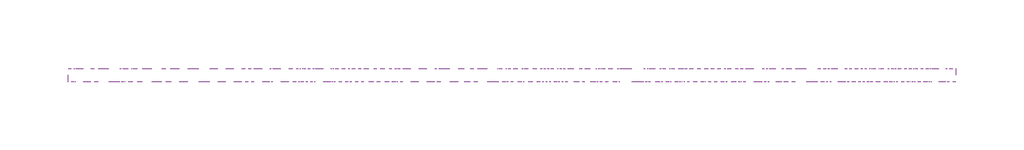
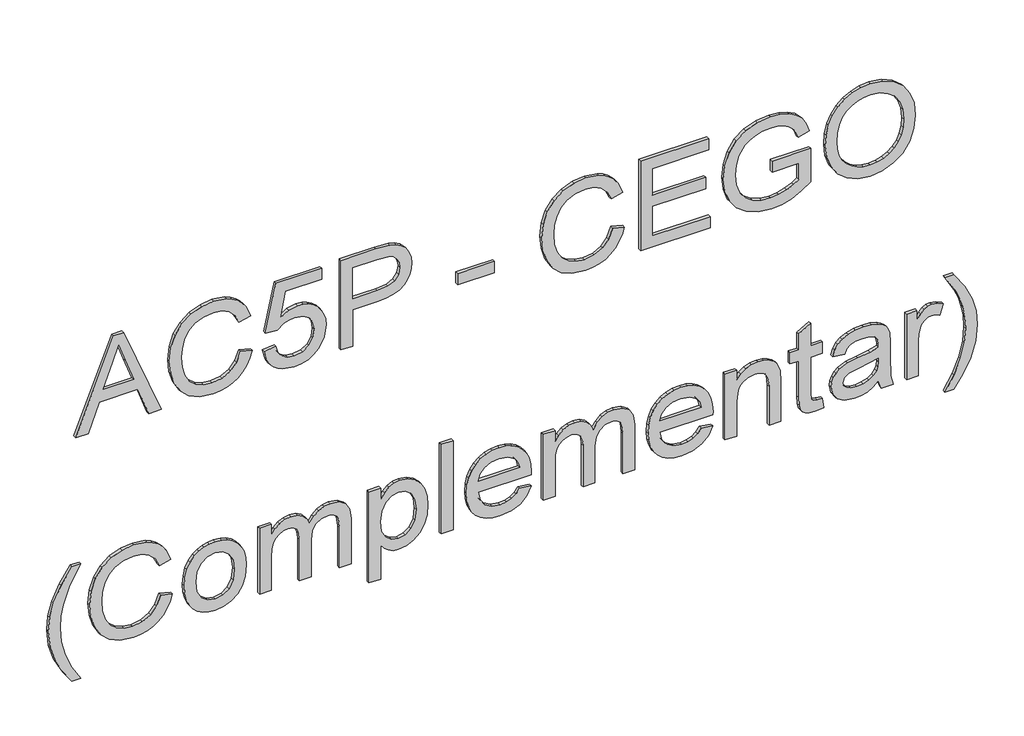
# One storey, part 12 of 12: 1 proxy.
"""IFC4 building model written with IfcOpenShell, lengths in millimetres."""

from ifc_helpers import new_model, si_unit, frame, origin, place, context, project, spatial, polyline, outline, extrude, element, save

model = new_model("IFC4")

# Units and contexts
model_context = context("Model", 3, world=origin())
ifc_project = project(units=[si_unit("LENGTHUNIT", "METRE", prefix="MILLI")], contexts=[model_context])

# Site, building, storey
site = spatial("IfcSite", under=ifc_project)
building = spatial("IfcBuilding", under=site)
storey = spatial("IfcBuildingStorey", under=building, Name="02 - Marelli - Planta Baixa - Painéis Cego", Elevation=12000.0)

# Proxy
placement = place(None, origin())
element("IfcBuildingElementProxy", 1, Name="300mm Arial", ObjectType="300mm Arial", at=placement, inside=storey, context=model_context, shape_type="SweptSolid", body=[
    extrude(outline(polyline([(17965.9244535, 67481.4076008), (17965.9244535, 67521.2124327), (18060.1022443, 67555.6461874), (18060.1022443, 67679.7695726), (17965.9244535, 67714.2769037), (17965.9244535, 67754.0817356), (18267.293384, 67633.7843232), (18267.293384, 67601.7050132), (17965.9244535, 67481.4076008)]), holes=[polyline([(18097.7733606, 67569.4785504), (18178.3395176, 67598.9826865), (18229.6222677, 67617.7446682), (18171.8647944, 67638.8610947), (18097.7733606, 67666.010786), (18097.7733606, 67569.4785504)])]), frame((0.0, 8778.3159498, 0.0), z_axis=(0.0, 1.0, 0.0), x_axis=(0.0, 0.0, 1.0)), (0.0, 0.0, 1.0), 10.0),
    extrude(outline(polyline([(18073.0516905, 68006.2280551), (18040.7884396, 67994.041964), (18017.5750857, 67974.2591097), (18003.5587816, 67948.0567146), (17998.8866803, 67916.6120011), (18002.3171799, 67889.6370538), (18012.6086787, 67864.6302752), (18029.8347531, 67843.771366), (18054.0689796, 67829.2400272), (18084.1617268, 67820.714362), (18118.9633635, 67817.8724736), (18147.3822477, 67820.2729036), (18174.9550032, 67827.4741937), (18199.3455795, 67840.5983838), (18218.2179258, 67860.7675142), (18230.3028494, 67887.3469884), (18234.3311572, 67919.7022098), (18230.6983225, 67947.7716061), (18219.7998184, 67970.617078), (18200.9550632, 67988.4593547), (18173.4834752, 68001.5191656), (18182.4597959, 68039.1902819), (18220.278065, 68022.5528186), (18235.6003501, 68010.7507044), (18248.5314022, 67996.626335), (18258.7999084, 67980.446425), (18266.1345557, 67962.4776888), (18272.0022735, 67921.1737378), (18267.4681279, 67883.3186805), (18253.8656912, 67848.7745612), (18231.526057, 67819.6475042), (18200.7803193, 67798.043634), (18162.8332915, 67784.6619265), (18118.8897871, 67780.2013573), (18077.2271512, 67784.1468917), (18038.3236302, 67795.9834949), (18005.2326447, 67815.370876), (17981.0076153, 67841.9687443), (17966.1635768, 67876.6692135), (17961.215564, 67920.3643974), (17962.8503396, 67942.786805), (17967.7546665, 67963.4065909), (17975.9285445, 67982.2237549), (17987.3719739, 67999.2382972), (18001.9286046, 68014.1145254), (18019.4420868, 68026.5167471), (18039.9124206, 68036.4449625), (18063.3396059, 68043.8991714), (18073.0516905, 68006.2280551)])), frame((0.0, 8778.3159498, 0.0), z_axis=(0.0, 1.0, 0.0), x_axis=(0.0, 0.0, 1.0)), (0.0, 0.0, 1.0), 10.0),
    extrude(outline(polyline([(18045.9755757, 68081.5702877), (18011.4222593, 68090.7581406), (17996.9805917, 68099.4838416), (17984.4289179, 68110.9640591), (17974.2730756, 68124.7619332), (17967.0189025, 68140.440604), (17961.215564, 68177.4403357), (17963.4734397, 68200.9296011), (17970.247067, 68221.8069043), (17981.5364457, 68240.0722453), (17997.3415759, 68255.7256242), (18012.7742256, 68266.0585098), (18029.5680387, 68273.4391423), (18067.239155, 68279.3436483), (18087.5002559, 68277.7042742), (18105.8299763, 68272.7861518), (18122.2283162, 68264.5892811), (18136.6952757, 68253.1136621), (18148.5088863, 68239.2514086), (18156.9471795, 68223.8946346), (18162.0101555, 68207.04334), (18163.6978141, 68188.6975247), (18158.2531606, 68160.4993698), (18141.9192, 68133.5888018), (18224.9133781, 68149.7020332), (18224.9133781, 68265.2169797), (18262.5844944, 68265.2169797), (18262.5844944, 68119.241404), (18107.1911397, 68086.2791773), (18102.4822501, 68123.9502936), (18119.4783983, 68145.1035083), (18124.389623, 68159.9015615), (18126.0266978, 68178.1760997), (18121.9248136, 68206.0707519), (18109.6191609, 68225.8903944), (18090.2317797, 68237.7269976), (18064.8847102, 68241.672532), (18037.9649452, 68237.4602832), (18016.9496863, 68224.8235366), (18003.4024318, 68204.5900269), (17998.8866803, 68177.5874885), (18002.1332389, 68155.3858101), (18011.8729147, 68138.224115), (18028.0689196, 68126.1575855), (18050.6844652, 68119.241404), (18045.9755757, 68081.5702877)])), frame((0.0, 8778.3159498, 0.0), z_axis=(0.0, 1.0, 0.0), x_axis=(0.0, 0.0, 1.0)), (0.0, 0.0, 1.0), 10.0),
    extrude(outline(polyline([(17965.9244535, 68326.4325437), (17965.9244535, 68364.10366), (18088.3555815, 68364.10366), (18088.3555815, 68440.6966914), (18090.0202476, 68469.8950255), (18095.0142456, 68494.2143247), (18103.3375758, 68513.6545888), (18114.990238, 68528.2158181), (18129.0479287, 68538.8223158), (18144.5863445, 68546.3983857), (18161.6054853, 68550.9440276), (18180.1053511, 68552.4592416), (18201.5620685, 68550.2151614), (18221.19777, 68543.4829209), (18237.8444303, 68533.0626634), (18250.334024, 68519.7545322), (18259.0620243, 68503.2274335), (18264.4239044, 68483.1502737), (18267.293384, 68438.1215175), (18267.293384, 68326.4325437), (17965.9244535, 68326.4325437)]), holes=[polyline([(18126.0266978, 68364.10366), (18229.6222677, 68364.10366), (18229.6222677, 68442.0210666), (18227.0470937, 68479.6921829), (18220.7195234, 68493.9200191), (18209.9773691, 68505.1128288), (18195.7035477, 68512.3693011), (18178.7809759, 68514.7881252), (18156.5057211, 68510.686241), (18139.8590609, 68498.3805883), (18129.4847886, 68476.3076685), (18126.0266978, 68442.9039834), (18126.0266978, 68364.10366)])]), frame((0.0, 8778.3159498, 0.0), z_axis=(0.0, 1.0, 0.0), x_axis=(0.0, 0.0, 1.0)), (0.0, 0.0, 1.0), 10.0),
    extrude(outline(polyline([(68816.1570557, 8778.3159498), (68698.4348172, 8778.3159498), (68698.4348172, 8788.3159498), (68816.1570557, 8788.3159498), (68816.1570557, 8778.3159498)])), frame((0.0, 0.0, 18055.3933548), z_axis=(0.0, 0.0, 1.0), x_axis=(1.0, 0.0, 0.0)), (0.0, 0.0, 1.0), 37.6711163),
    extrude(outline(polyline([(18073.0516905, 69192.8682188), (18040.7884396, 69180.6821277), (18017.5750857, 69160.8992734), (18003.5587816, 69134.6968783), (17998.8866803, 69103.2521647), (18002.3171799, 69076.2772174), (18012.6086787, 69051.2704388), (18029.8347531, 69030.4115297), (18054.0689796, 69015.8801909), (18084.1617268, 69007.3545256), (18118.9633635, 69004.5126372), (18147.3822477, 69006.9130672), (18174.9550032, 69014.1143573), (18199.3455795, 69027.2385475), (18218.2179258, 69047.4076779), (18230.3028494, 69073.987152), (18234.3311572, 69106.3423735), (18230.6983225, 69134.4117697), (18219.7998184, 69157.2572416), (18200.9550632, 69175.0995184), (18173.4834752, 69188.1593292), (18182.4597959, 69225.8304455), (18220.278065, 69209.1929823), (18235.6003501, 69197.390868), (18248.5314022, 69183.2664987), (18258.7999084, 69167.0865887), (18266.1345557, 69149.1178525), (18272.0022735, 69107.8139015), (18267.4681279, 69069.9588442), (18253.8656912, 69035.4147248), (18231.526057, 69006.2876679), (18200.7803193, 68984.6837977), (18162.8332915, 68971.3020901), (18118.8897871, 68966.8415209), (18077.2271512, 68970.7870553), (18038.3236302, 68982.6236585), (18005.2326447, 69002.0110397), (17981.0076153, 69028.6089079), (17966.1635768, 69063.3093771), (17961.215564, 69107.0045611), (17962.8503396, 69129.4269687), (17967.7546665, 69150.0467545), (17975.9285445, 69168.8639186), (17987.3719739, 69185.8784608), (18001.9286046, 69200.754689), (18019.4420868, 69213.1569108), (18039.9124206, 69223.0851261), (18063.3396059, 69230.5393351), (18073.0516905, 69192.8682188)])), frame((0.0, 8778.3159498, 0.0), z_axis=(0.0, 1.0, 0.0), x_axis=(0.0, 0.0, 1.0)), (0.0, 0.0, 1.0), 10.0),
    extrude(outline(polyline([(17965.9244535, 69282.33712), (17965.9244535, 69503.6549283), (18003.5955698, 69503.6549283), (18003.5955698, 69320.0082363), (18102.4822501, 69320.0082363), (18102.4822501, 69489.5282597), (18140.1533665, 69489.5282597), (18140.1533665, 69320.0082363), (18229.6222677, 69320.0082363), (18229.6222677, 69498.9460387), (18267.293384, 69498.9460387), (18267.293384, 69282.33712), (17965.9244535, 69282.33712)])), frame((0.0, 8778.3159498, 0.0), z_axis=(0.0, 1.0, 0.0), x_axis=(0.0, 0.0, 1.0)), (0.0, 0.0, 1.0), 10.0),
    extrude(outline(polyline([(18083.646692, 69701.4282889), (18083.646692, 69786.1883006), (18029.2001567, 69786.1883006), (18018.55917, 69770.1394485), (18008.5619768, 69748.0389377), (18001.3055044, 69722.5907007), (17998.8866803, 69696.4986702), (18002.0964507, 69666.9485489), (18011.7257619, 69639.0722907), (18027.967752, 69615.2519315), (18051.015559, 69597.8695072), (18080.6576508, 69587.2469146), (18116.6824952, 69583.7060504), (18147.4006418, 69586.6491064), (18175.83792, 69595.4782743), (18204.8638094, 69614.8656554), (18216.8015801, 69629.3050237), (18226.2009651, 69647.6807294), (18232.2986092, 69669.909999), (18234.3311572, 69695.910059), (18232.445762, 69718.1209344), (18226.7895763, 69738.2532766), (18217.9971966, 69755.1390602), (18206.7032194, 69767.6102598), (18191.7212251, 69777.0372359), (18171.8647944, 69784.790349), (18181.6504555, 69819.5184093), (18209.4899255, 69809.9258863), (18231.4984659, 69796.7465138), (18248.494614, 69778.9318282), (18261.2969075, 69755.4333658), (18269.325932, 69727.5295164), (18272.0022735, 69696.4986702), (18267.3853545, 69654.2290289), (18253.5345974, 69617.183312), (18230.1832877, 69586.768668), (18197.0647111, 69564.3922457), (18157.581776, 69550.624262), (18115.1373908, 69546.0349341), (18072.9965082, 69550.6426561), (18035.0126922, 69564.4658221), (18003.3472495, 69587.3296881), (17980.1614867, 69619.0595102), (17965.9520447, 69657.2548583), (17961.215564, 69699.5153025), (17964.1954082, 69731.8613269), (17973.1349406, 69763.4164051), (17987.9789791, 69794.1069605), (18008.6723414, 69823.8594169), (18121.3178083, 69823.8594169), (18121.3178083, 69701.4282889), (18083.646692, 69701.4282889)])), frame((0.0, 8778.3159498, 0.0), z_axis=(0.0, 1.0, 0.0), x_axis=(0.0, 0.0, 1.0)), (0.0, 0.0, 1.0), 10.0),
    extrude(outline(polyline([(18112.6357932, 69870.9483123), (18074.0909572, 69875.2525316), (18037.6246544, 69888.1651896), (18005.9316205, 69909.428769), (17981.7065911, 69938.7857522), (17966.3383208, 69974.4335175), (17961.215564, 70014.5694432), (17965.8508771, 70052.3785152), (17979.7568166, 70087.5204428), (18002.6758649, 70117.4844313), (18034.3505046, 70139.7596861), (18072.8125672, 70153.5828521), (18116.093884, 70158.1905741), (18158.8049836, 70153.8127784), (18196.7336173, 70140.6793911), (18228.3530748, 70119.1950826), (18252.1366458, 70089.764523), (18267.0358666, 70054.3190928), (18272.0022735, 70014.7901724), (18269.3581217, 69984.4996886), (18261.4256662, 69957.1246696), (18248.204907, 69932.6651155), (18229.6958441, 69911.1210261), (18206.5146799, 69893.5454638), (18179.2776166, 69880.9914907), (18147.9846544, 69873.4591069), (18112.6357932, 69870.9483123)]), holes=[polyline([(18112.2679112, 69908.6194286), (18142.8044161, 69910.5829987), (18168.6366299, 69916.4737092), (18189.7645528, 69926.2915599), (18206.1881846, 69940.036551), (18218.5007351, 69956.5038688), (18227.2954141, 69974.4886998), (18232.5722214, 69993.9910441), (18234.3311572, 70015.0109016), (18230.6799284, 70044.1747467), (18219.726242, 70070.3035655), (18202.1322856, 70091.9626179), (18178.5602467, 70107.7171644), (18149.7366924, 70117.3188844), (18116.3881896, 70120.5194578), (18089.8501021, 70118.6501574), (18066.5217851, 70113.0422562), (18046.4032385, 70103.6957543), (18029.4944623, 70090.6106516), (18016.1035577, 70074.6284782), (18006.5386258, 70056.5907641), (18000.7996667, 70036.4975094), (17998.8866803, 70014.348714), (18000.7812726, 69992.5723991), (18006.4650494, 69972.7136692), (18015.9380108, 69954.7725241), (18029.2001567, 69938.748964), (18045.759445, 69925.5672922), (18065.1238335, 69916.1518124), (18087.2933223, 69910.5025245), (18112.2679112, 69908.6194286)])]), frame((0.0, 8778.3159498, 0.0), z_axis=(0.0, 1.0, 0.0), x_axis=(0.0, 0.0, 1.0)), (0.0, 0.0, 1.0), 10.0),
    extrude(outline(polyline([(17149.3155348, 67469.4146478), (17149.3155348, 67497.667985), (17197.5540614, 67468.8260366), (17245.8109821, 67448.2246448), (17294.0862969, 67435.8638098), (17342.3800058, 67431.7435314), (17380.2534572, 67434.1163703), (17417.9429677, 67441.2348869), (17475.7740173, 67462.4248898), (17535.4444769, 67497.667985), (17535.4444769, 67469.4146478), (17484.934279, 67434.7233756), (17434.2033518, 67410.4063757), (17389.4137189, 67398.1559053), (17342.600735, 67394.0724151), (17289.2210575, 67399.5354628), (17237.68079, 67415.9246057), (17190.2791949, 67440.2232114), (17149.3155348, 67469.4146478)])), frame((0.0, 8778.3159498, 0.0), z_axis=(0.0, 1.0, 0.0), x_axis=(0.0, 0.0, 1.0)), (0.0, 0.0, 1.0), 10.0),
    extrude(outline(polyline([(17341.2027835, 67751.94802), (17308.9395325, 67739.761929), (17285.7261786, 67719.9790747), (17271.7098746, 67693.7766796), (17267.0377732, 67662.331966), (17270.4682728, 67635.3570187), (17280.7597717, 67610.3502401), (17297.9858461, 67589.491331), (17322.2200725, 67574.9599922), (17352.3128197, 67566.4343269), (17387.1144565, 67563.5924385), (17415.5333406, 67565.9928685), (17443.1060961, 67573.1941586), (17467.4966724, 67586.3183488), (17486.3690188, 67606.4874792), (17498.4539423, 67633.0669533), (17502.4822501, 67665.4221748), (17498.8494154, 67693.491571), (17487.9509113, 67716.3370429), (17469.1061561, 67734.1793197), (17441.6345681, 67747.2391305), (17450.6108888, 67784.9102468), (17488.4291579, 67768.2727836), (17503.751443, 67756.4706693), (17516.6824952, 67742.3463), (17526.9510013, 67726.16639), (17534.2856486, 67708.1976538), (17540.1533665, 67666.8937028), (17535.6192209, 67629.0386455), (17522.0167841, 67594.4945261), (17499.6771499, 67565.3674691), (17468.9314122, 67543.763599), (17430.9843844, 67530.3818914), (17387.0408801, 67525.9213222), (17345.3782441, 67529.8668566), (17306.4747231, 67541.7034598), (17273.3837376, 67561.0908409), (17249.1587083, 67587.6887092), (17234.3146698, 67622.3891784), (17229.3666569, 67666.0843624), (17231.0014325, 67688.50677), (17235.9057594, 67709.1265558), (17244.0796375, 67727.9437199), (17255.5230668, 67744.9582621), (17270.0796975, 67759.8344903), (17287.5931797, 67772.2367121), (17308.0635135, 67782.1649274), (17331.4906988, 67789.6191364), (17341.2027835, 67751.94802)])), frame((0.0, 8778.3159498, 0.0), z_axis=(0.0, 1.0, 0.0), x_axis=(0.0, 0.0, 1.0)), (0.0, 0.0, 1.0), 10.0),
    extrude(outline(polyline([(17344.7344506, 67827.2902527), (17318.4124939, 67828.9986047), (17295.3646869, 67834.1236607), (17275.5910296, 67842.6654208), (17259.0915221, 67854.6238849), (17246.0868936, 67869.350661), (17236.7978732, 67886.1973571), (17231.224461, 67905.1639733), (17229.3666569, 67926.2505094), (17232.7419742, 67952.8391806), (17242.8679261, 67977.2757421), (17259.1007192, 67997.8495427), (17280.7965599, 68012.849931), (17309.767267, 68022.0101927), (17347.8246594, 68025.0636133), (17372.7049786, 68023.3368672), (17394.7388108, 68018.1566288), (17413.9261561, 68009.5228982), (17430.2670145, 67997.4356754), (17443.3199275, 67982.6261259), (17452.6434368, 67965.825415), (17458.2375424, 67947.0335428), (17460.1022443, 67926.2505094), (17458.5709355, 67907.4241483), (17453.9770091, 67890.0877092), (17446.3204651, 67874.2411923), (17435.6013034, 67859.8845974), (17418.830483, 67845.6245716), (17398.095734, 67835.4388389), (17373.3970566, 67829.3273992), (17344.7344506, 67827.2902527)]), holes=[polyline([(17344.808027, 67864.961369), (17378.8830968, 67869.3207706), (17403.1173232, 67882.3989755), (17417.6026768, 67902.0806623), (17422.431128, 67926.2505094), (17417.5842827, 67950.1720361), (17403.0437468, 67969.8445258), (17379.0854319, 67983.0055042), (17345.9852494, 67987.392497), (17311.1468245, 67983.0330953), (17286.535519, 67969.9548904), (17271.9122097, 67950.3099918), (17267.0377732, 67926.2505094), (17271.8846185, 67902.0806623), (17286.4251544, 67882.3989755), (17310.7145631, 67869.3207706), (17344.808027, 67864.961369)])]), frame((0.0, 8778.3159498, 0.0), z_axis=(0.0, 1.0, 0.0), x_axis=(0.0, 0.0, 1.0)), (0.0, 0.0, 1.0), 10.0),
    extrude(outline(polyline([(17234.0755465, 68067.4436191), (17234.0755465, 68105.1147354), (17345.6909438, 68105.1147354), (17371.6082304, 68106.5494752), (17390.6461236, 68110.8536945), (17404.368122, 68118.3584872), (17414.3377241, 68129.3949471), (17420.407777, 68142.7674576), (17422.431128, 68157.2804023), (17419.3961015, 68174.359324), (17410.2910222, 68185.8648334), (17395.0974958, 68192.4039358), (17373.7971282, 68194.5836366), (17234.0755465, 68194.5836366), (17234.0755465, 68232.2547529), (17359.008272, 68232.2547529), (17387.7214617, 68235.94277), (17407.3479662, 68247.006821), (17418.6603375, 68263.6442842), (17422.431128, 68284.0525379), (17420.9596, 68295.6132296), (17416.5450161, 68305.5736346), (17409.7300021, 68313.3175506), (17401.0571841, 68318.2287752), (17369.6032735, 68321.7236542), (17234.0755465, 68321.7236542), (17234.0755465, 68359.3947705), (17385.7900813, 68359.3947705), (17418.7615051, 68355.0813541), (17441.8920855, 68342.1411049), (17455.5497046, 68321.1994223), (17460.1022443, 68292.8817058), (17457.366122, 68273.3563689), (17449.1577549, 68255.7624124), (17435.4771432, 68240.0998365), (17416.3242869, 68226.368641), (17434.7643719, 68218.1648725), (17448.5875379, 68205.6200965), (17457.2235677, 68188.8262834), (17460.1022443, 68167.8754038), (17457.27875, 68148.3224757), (17448.808267, 68131.0136279), (17435.702471, 68116.4455009), (17418.9730372, 68105.1147354), (17455.3933548, 68105.1147354), (17455.3933548, 68067.4436191), (17234.0755465, 68067.4436191)])), frame((0.0, 8778.3159498, 0.0), z_axis=(0.0, 1.0, 0.0), x_axis=(0.0, 0.0, 1.0)), (0.0, 0.0, 1.0), 10.0),
    extrude(outline(polyline([(17149.3155348, 68415.9014449), (17149.3155348, 68453.5725612), (17263.5061061, 68453.5725612), (17249.9956398, 68464.213548), (17239.0419534, 68477.4481027), (17231.785481, 68492.9083436), (17229.3666569, 68510.2263885), (17232.9810975, 68534.6445559), (17243.8244193, 68557.8671069), (17261.4459669, 68577.806311), (17285.3950848, 68592.374438), (17314.2094421, 68601.2863794), (17346.4267078, 68604.2570265), (17376.7217901, 68601.6266702), (17404.4784866, 68593.7356014), (17427.9861461, 68580.6757906), (17445.5341173, 68562.5392082), (17456.4602125, 68540.2639534), (17460.1022443, 68514.7881252), (17457.4994792, 68495.6582615), (17449.6911838, 68479.6186065), (17436.6773583, 68465.8598199), (17418.4580024, 68453.5725612), (17455.3933548, 68453.5725612), (17455.3933548, 68415.9014449), (17149.3155348, 68415.9014449)]), holes=[polyline([(17342.968617, 68453.5725612), (17377.1356573, 68457.9227658), (17402.0872537, 68470.9733796), (17417.3451594, 68489.670982), (17422.431128, 68510.9621525), (17417.6486621, 68532.1705495), (17403.3012642, 68550.1783732), (17379.3521464, 68562.4840259), (17345.7645202, 68566.5859102), (17310.7237602, 68562.3828584), (17286.2412134, 68549.773703), (17271.8386333, 68531.2784357), (17267.0377732, 68509.4170481), (17271.6730864, 68487.9051484), (17285.5790258, 68469.8697336), (17309.1970499, 68457.6468543), (17342.968617, 68453.5725612)])]), frame((0.0, 8778.3159498, 0.0), z_axis=(0.0, 1.0, 0.0), x_axis=(0.0, 0.0, 1.0)), (0.0, 0.0, 1.0), 10.0),
    extrude(outline(polyline([(68684.3081486, 8778.3159498), (68646.6370323, 8778.3159498), (68646.6370323, 8788.3159498), (68684.3081486, 8788.3159498), (68684.3081486, 8778.3159498)])), frame((0.0, 0.0, 17234.0755465), z_axis=(0.0, 0.0, 1.0), x_axis=(1.0, 0.0, 0.0)), (0.0, 0.0, 1.0), 301.3689304),
    extrude(outline(polyline([(17300.0, 68895.7667195), (17285.1191733, 68885.2085062), (17274.9104479, 68871.4865078), (17269.0059419, 68854.6007242), (17267.0377732, 68834.5511555), (17271.2868103, 68807.8889079), (17284.0339214, 68786.0275203), (17304.7640718, 68770.8799791), (17332.9622268, 68764.3592708), (17332.9622268, 68933.658565), (17343.1157698, 68933.8792942), (17369.3687487, 68932.0927672), (17392.5039277, 68926.7331864), (17412.5213067, 68917.8005517), (17429.4208859, 68905.2948631), (17442.8439802, 68889.9748773), (17452.4319047, 68872.5993508), (17458.1846594, 68853.1682837), (17460.1022443, 68831.6816759), (17458.1800609, 68809.4799975), (17452.4135106, 68789.4488228), (17442.8025935, 68771.588152), (17429.3473095, 68755.8979849), (17412.4109422, 68743.1186841), (17392.3567749, 68733.9906121), (17369.1848077, 68728.5137689), (17342.8950406, 68726.6881545), (17317.467497, 68728.4953748), (17295.0427901, 68733.9170357), (17275.62092, 68742.9531372), (17259.2018867, 68755.6036793), (17246.1489737, 68771.3352331), (17236.8254644, 68789.6143697), (17231.2313588, 68810.4410892), (17229.3666569, 68833.8153915), (17233.6892704, 68869.4723538), (17246.6571107, 68898.1579524), (17267.4608375, 68919.3939406), (17295.2911105, 68932.7020718), (17300.0, 68895.7667195)]), holes=[polyline([(17370.6333431, 68764.3592708), (17391.8693312, 68770.5488853), (17408.3412476, 68785.1446035), (17418.9086579, 68806.1414684), (17422.431128, 68831.5345231), (17418.0165441, 68859.1624609), (17404.7727922, 68881.125016), (17390.535759, 68891.1130122), (17370.6333431, 68896.2081778), (17370.6333431, 68764.3592708)])]), frame((0.0, 8778.3159498, 0.0), z_axis=(0.0, 1.0, 0.0), x_axis=(0.0, 0.0, 1.0)), (0.0, 0.0, 1.0), 10.0),
    extrude(outline(polyline([(17234.0755465, 68971.5504105), (17234.0755465, 69009.2215268), (17345.6909438, 69009.2215268), (17371.6082304, 69010.6562665), (17390.6461236, 69014.9604859), (17404.368122, 69022.4652786), (17414.3377241, 69033.5017384), (17420.407777, 69046.874249), (17422.431128, 69061.3871937), (17419.3961015, 69078.4661153), (17410.2910222, 69089.9716247), (17395.0974958, 69096.5107272), (17373.7971282, 69098.690428), (17234.0755465, 69098.690428), (17234.0755465, 69136.3615443), (17359.008272, 69136.3615443), (17387.7214617, 69140.0495613), (17407.3479662, 69151.1136123), (17418.6603375, 69167.7510755), (17422.431128, 69188.1593292), (17420.9596, 69199.7200209), (17416.5450161, 69209.6804259), (17409.7300021, 69217.4243419), (17401.0571841, 69222.3355666), (17369.6032735, 69225.8304455), (17234.0755465, 69225.8304455), (17234.0755465, 69263.5015618), (17385.7900813, 69263.5015618), (17418.7615051, 69259.1881454), (17441.8920855, 69246.2478963), (17455.5497046, 69225.3062137), (17460.1022443, 69196.9884971), (17457.366122, 69177.4631602), (17449.1577549, 69159.8692038), (17435.4771432, 69144.2066278), (17416.3242869, 69130.4754324), (17434.7643719, 69122.2716639), (17448.5875379, 69109.7268878), (17457.2235677, 69092.9330748), (17460.1022443, 69071.9821951), (17457.27875, 69052.4292671), (17448.808267, 69035.1204192), (17435.702471, 69020.5522922), (17418.9730372, 69009.2215268), (17455.3933548, 69009.2215268), (17455.3933548, 68971.5504105), (17234.0755465, 68971.5504105)])), frame((0.0, 8778.3159498, 0.0), z_axis=(0.0, 1.0, 0.0), x_axis=(0.0, 0.0, 1.0)), (0.0, 0.0, 1.0), 10.0),
    extrude(outline(polyline([(17300.0, 69474.9601327), (17285.1191733, 69464.4019194), (17274.9104479, 69450.679921), (17269.0059419, 69433.7941374), (17267.0377732, 69413.7445687), (17271.2868103, 69387.0823211), (17284.0339214, 69365.2209335), (17304.7640718, 69350.0733923), (17332.9622268, 69343.552684), (17332.9622268, 69512.8519782), (17343.1157698, 69513.0727074), (17369.3687487, 69511.2861804), (17392.5039277, 69505.9265996), (17412.5213067, 69496.9939649), (17429.4208859, 69484.4882763), (17442.8439802, 69469.1682905), (17452.4319047, 69451.792764), (17458.1846594, 69432.3616969), (17460.1022443, 69410.8750891), (17458.1800609, 69388.6734107), (17452.4135106, 69368.6422361), (17442.8025935, 69350.7815652), (17429.3473095, 69335.0913981), (17412.4109422, 69322.3120973), (17392.3567749, 69313.1840253), (17369.1848077, 69307.7071821), (17342.8950406, 69305.8815677), (17317.467497, 69307.688788), (17295.0427901, 69313.1104489), (17275.62092, 69322.1465504), (17259.2018867, 69334.7970925), (17246.1489737, 69350.5286463), (17236.8254644, 69368.8077829), (17231.2313588, 69389.6345024), (17229.3666569, 69413.0088047), (17233.6892704, 69448.6657671), (17246.6571107, 69477.3513656), (17267.4608375, 69498.5873538), (17295.2911105, 69511.895485), (17300.0, 69474.9601327)]), holes=[polyline([(17370.6333431, 69343.552684), (17391.8693312, 69349.7422985), (17408.3412476, 69364.3380167), (17418.9086579, 69385.3348816), (17422.431128, 69410.7279363), (17418.0165441, 69438.3558741), (17404.7727922, 69460.3184292), (17390.535759, 69470.3064254), (17370.6333431, 69475.4015911), (17370.6333431, 69343.552684)])]), frame((0.0, 8778.3159498, 0.0), z_axis=(0.0, 1.0, 0.0), x_axis=(0.0, 0.0, 1.0)), (0.0, 0.0, 1.0), 10.0),
    extrude(outline(polyline([(17234.0755465, 69550.7438237), (17234.0755465, 69588.41494), (17351.5034793, 69588.41494), (17386.2131456, 69592.7099623), (17398.5877762, 69598.0787401), (17407.6422718, 69605.5950291), (17418.7339139, 69624.4029961), (17422.431128, 69646.4667188), (17420.7848561, 69660.3634612), (17415.8460403, 69672.3288231), (17408.1481095, 69681.6638287), (17398.2244927, 69687.6695023), (17364.8943839, 69692.0105098), (17234.0755465, 69692.0105098), (17234.0755465, 69729.6816261), (17369.9711555, 69729.6816261), (17406.391473, 69727.6950633), (17434.0929872, 69716.4010861), (17444.6328064, 69706.3027253), (17452.9285454, 69692.1208744), (17458.3088196, 69675.1155292), (17460.1022443, 69656.5466855), (17457.8765582, 69635.5682147), (17451.1995, 69617.2201002), (17440.0710697, 69601.5023419), (17424.4912672, 69588.41494), (17455.3933548, 69588.41494), (17455.3933548, 69550.7438237), (17234.0755465, 69550.7438237)])), frame((0.0, 8778.3159498, 0.0), z_axis=(0.0, 1.0, 0.0), x_axis=(0.0, 0.0, 1.0)), (0.0, 0.0, 1.0), 10.0),
    extrude(outline(polyline([(17265.4926689, 69861.5305332), (17267.0377732, 69845.1229962), (17269.576159, 69832.2839146), (17276.4555523, 69825.8459797), (17295.8797217, 69823.8594169), (17417.7222385, 69823.8594169), (17417.7222385, 69861.5305332), (17455.3933548, 69861.5305332), (17455.3933548, 69823.8594169), (17531.3241986, 69823.8594169), (17509.1777025, 69786.1883006), (17455.3933548, 69786.1883006), (17455.3933548, 69757.9349633), (17417.7222385, 69757.9349633), (17417.7222385, 69786.1883006), (17294.7760757, 69786.1883006), (17267.7919313, 69787.3287348), (17252.0281878, 69790.7500373), (17242.849532, 69796.967243), (17235.6206508, 69806.4953867), (17230.9301554, 69819.9782618), (17229.3666569, 69838.0596619), (17232.9719005, 69866.2394227), (17265.4926689, 69861.5305332)])), frame((0.0, 8778.3159498, 0.0), z_axis=(0.0, 1.0, 0.0), x_axis=(0.0, 0.0, 1.0)), (0.0, 0.0, 1.0), 10.0),
    extrude(outline(polyline([(17262.3288837, 70040.4683356), (17234.0755465, 70049.8861147), (17234.0755465, 70087.557231), (17265.7501862, 70080.0524383), (17331.1963932, 70078.1394519), (17378.0645594, 70078.1394519), (17411.0267861, 70076.300042), (17425.1442577, 70071.7566993), (17436.5945848, 70064.7485473), (17445.856014, 70054.181137), (17453.406792, 70038.9600195), (17458.4283812, 70018.772495), (17460.1022443, 69993.3058639), (17458.207652, 69966.7539809), (17452.5238752, 69943.6050063), (17443.3452194, 69924.6774777), (17430.9659903, 69910.7899323), (17414.7791825, 69901.0318624), (17394.1777908, 69894.49276), (17389.4689012, 69932.1638763), (17405.1314772, 69939.6502749), (17415.1838527, 69950.3372468), (17420.6193092, 69966.0090198), (17422.431128, 69988.4498215), (17419.7088012, 70012.693245), (17411.5418209, 70030.0940634), (17400.5421493, 70037.8747676), (17383.7299421, 70040.4683356), (17375.3422326, 70040.2476064), (17368.3524747, 70013.429009), (17362.3927864, 69974.9117641), (17356.7274037, 69942.3174193), (17344.3665686, 69915.9402803), (17334.8752131, 69905.3360818), (17322.7351073, 69896.9943575), (17308.5532564, 69891.5864922), (17292.9366657, 69889.7838704), (17267.6079903, 69894.5571393), (17247.2457219, 69908.876946), (17233.8364232, 69932.0994969), (17229.3666569, 69963.5809987), (17231.224461, 69984.4491048), (17236.7978732, 70003.9376535), (17246.896234, 70022.469709), (17262.3288837, 70040.4683356)]), holes=[polyline([(17337.6711163, 70040.4683356), (17327.0025384, 70040.2476064), (17310.0799667, 70038.7576844), (17297.8662844, 70034.2879181), (17286.0112871, 70024.2079515), (17276.0508821, 70009.7134008), (17269.2910505, 69991.8343359), (17267.0377732, 69971.6008261), (17269.0795183, 69952.5169476), (17275.2047535, 69938.6753876), (17284.3834093, 69930.2600869), (17295.5854161, 69927.4549867), (17310.0799667, 69932.6053347), (17320.0127805, 69947.2838263), (17326.1196217, 69979.69423), (17337.6711163, 70040.4683356)])]), frame((0.0, 8778.3159498, 0.0), z_axis=(0.0, 1.0, 0.0), x_axis=(0.0, 0.0, 1.0)), (0.0, 0.0, 1.0), 10.0),
    extrude(outline(polyline([(17234.0755465, 70129.9372369), (17234.0755465, 70167.6083532), (17350.3998333, 70167.6083532), (17373.3556698, 70169.1350635), (17394.39852, 70173.7151943), (17406.1339556, 70179.1690449), (17414.9999117, 70187.2900399), (17420.5733239, 70197.3424154), (17422.431128, 70208.5904074), (17420.4997475, 70221.8341593), (17414.7056061, 70235.0779111), (17448.4771733, 70247.6594753), (17457.1959765, 70228.603188), (17460.1022443, 70209.8412062), (17458.2812284, 70197.5539476), (17452.8181808, 70186.2967585), (17441.6345681, 70175.0763577), (17422.6518572, 70162.8994636), (17455.3933548, 70162.8994636), (17455.3933548, 70129.9372369), (17234.0755465, 70129.9372369)])), frame((0.0, 8778.3159498, 0.0), z_axis=(0.0, 1.0, 0.0), x_axis=(0.0, 0.0, 1.0)), (0.0, 0.0, 1.0), 10.0),
    extrude(outline(polyline([(17149.3155348, 70280.6217021), (17190.2791949, 70309.6751827), (17237.68079, 70334.0013796), (17289.2210575, 70350.4732959), (17342.600735, 70355.9639347), (17389.4137189, 70351.8804446), (17434.2033518, 70339.6299741), (17484.934279, 70315.3129742), (17535.4444769, 70280.6217021), (17535.4444769, 70252.3683649), (17475.1854061, 70287.8321892), (17446.8400984, 70299.8067481), (17417.2807801, 70308.8014629), (17379.9775458, 70315.9199795), (17342.3800058, 70318.2928184), (17294.0862969, 70314.1725401), (17245.8109821, 70301.811705), (17197.5540614, 70281.2103133), (17149.3155348, 70252.3683649), (17149.3155348, 70280.6217021)])), frame((0.0, 8778.3159498, 0.0), z_axis=(0.0, 1.0, 0.0), x_axis=(0.0, 0.0, 1.0)), (0.0, 0.0, 1.0), 10.0),
])

save(model, "model.ifc")
